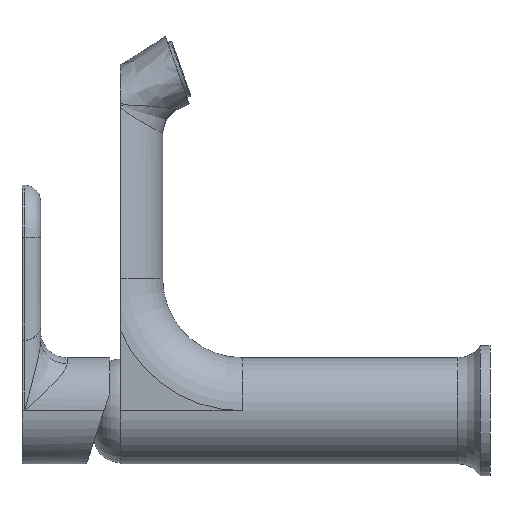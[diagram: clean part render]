
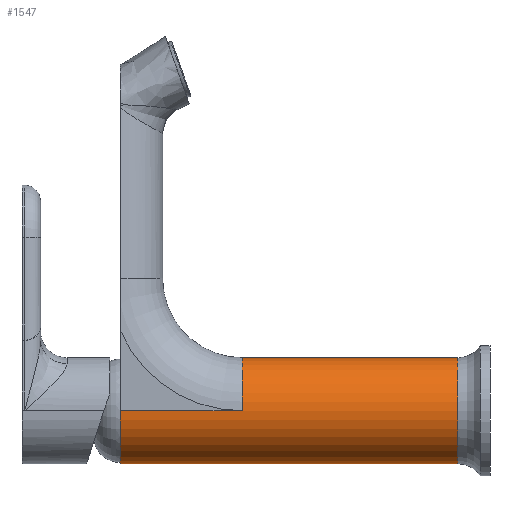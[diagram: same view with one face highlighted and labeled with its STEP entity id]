
A CAD part, left-side view. The second image highlights one B-rep face of the part: STEP entity #1547.
In plain terms, the highlighted cylindrical face has radius 20 mm (diameter 40 mm), a partial arc.
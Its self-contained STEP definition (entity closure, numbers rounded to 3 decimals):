
#99 = CIRCLE ( 'NONE', #3622, 20. ) ;
#129 = EDGE_CURVE ( 'NONE', #229, #1100, #2718, .T. ) ;
#162 = VERTEX_POINT ( 'NONE', #3592 ) ;
#200 = DIRECTION ( 'NONE',  ( 0., -1., 0. ) ) ;
#229 = VERTEX_POINT ( 'NONE', #2388 ) ;
#307 = EDGE_CURVE ( 'NONE', #1491, #2414, #99, .T. ) ;
#361 = CYLINDRICAL_SURFACE ( 'NONE', #2448, 20. ) ;
#407 = LINE ( 'NONE', #2145, #2753 ) ;
#447 = AXIS2_PLACEMENT_3D ( 'NONE', #3280, #766, #1302 ) ;
#605 = ORIENTED_EDGE ( 'NONE', *, *, #1910, .T. ) ;
#606 = ORIENTED_EDGE ( 'NONE', *, *, #129, .T. ) ;
#766 = DIRECTION ( 'NONE',  ( 0., 1., 0. ) ) ;
#897 = AXIS2_PLACEMENT_3D ( 'NONE', #1588, #1327, #1609 ) ;
#1040 = CARTESIAN_POINT ( 'NONE',  ( 0., 131.19, 0. ) ) ;
#1100 = VERTEX_POINT ( 'NONE', #1440 ) ;
#1177 = DIRECTION ( 'NONE',  ( 0., -1., 0. ) ) ;
#1243 = CIRCLE ( 'NONE', #447, 20. ) ;
#1302 = DIRECTION ( 'NONE',  ( 0., 0., -1. ) ) ;
#1319 = EDGE_CURVE ( 'NONE', #2414, #3091, #1529, .T. ) ;
#1327 = DIRECTION ( 'NONE',  ( 0., -1., 0. ) ) ;
#1421 = VECTOR ( 'NONE', #2406, 1000. ) ;
#1440 = CARTESIAN_POINT ( 'NONE',  ( -20., 85.19, 0. ) ) ;
#1491 = VERTEX_POINT ( 'NONE', #3533 ) ;
#1517 = CARTESIAN_POINT ( 'NONE',  ( 0., 3.84, -20. ) ) ;
#1529 = LINE ( 'NONE', #1662, #2090 ) ;
#1547 = ADVANCED_FACE ( 'NONE', ( #3128 ), #361, .T. ) ;
#1588 = CARTESIAN_POINT ( 'NONE',  ( 0., 85.19, 0. ) ) ;
#1609 = DIRECTION ( 'NONE',  ( 0., 0., 1. ) ) ;
#1662 = CARTESIAN_POINT ( 'NONE',  ( 0., 131.19, -20. ) ) ;
#1890 = DIRECTION ( 'NONE',  ( 0., 1., 0. ) ) ;
#1910 = EDGE_CURVE ( 'NONE', #1100, #1491, #407, .T. ) ;
#2090 = VECTOR ( 'NONE', #3065, 1000. ) ;
#2145 = CARTESIAN_POINT ( 'NONE',  ( -20., 115.19, 0. ) ) ;
#2388 = CARTESIAN_POINT ( 'NONE',  ( 0., 85.19, 20. ) ) ;
#2406 = DIRECTION ( 'NONE',  ( 0., -1., 0. ) ) ;
#2414 = VERTEX_POINT ( 'NONE', #3155 ) ;
#2448 = AXIS2_PLACEMENT_3D ( 'NONE', #1040, #200, #2993 ) ;
#2485 = ORIENTED_EDGE ( 'NONE', *, *, #3074, .T. ) ;
#2718 = CIRCLE ( 'NONE', #897, 20. ) ;
#2738 = LINE ( 'NONE', #3260, #1421 ) ;
#2753 = VECTOR ( 'NONE', #1890, 1000. ) ;
#2832 = EDGE_CURVE ( 'NONE', #229, #162, #2738, .T. ) ;
#2876 = DIRECTION ( 'NONE',  ( 0., 0., 1. ) ) ;
#2890 = ORIENTED_EDGE ( 'NONE', *, *, #2832, .F. ) ;
#2993 = DIRECTION ( 'NONE',  ( 0., 0., -1. ) ) ;
#3065 = DIRECTION ( 'NONE',  ( 0., -1., 0. ) ) ;
#3074 = EDGE_CURVE ( 'NONE', #3091, #162, #1243, .T. ) ;
#3091 = VERTEX_POINT ( 'NONE', #1517 ) ;
#3123 = ORIENTED_EDGE ( 'NONE', *, *, #1319, .T. ) ;
#3128 = FACE_OUTER_BOUND ( 'NONE', #3561, .T. ) ;
#3155 = CARTESIAN_POINT ( 'NONE',  ( 0., 131.09, -20. ) ) ;
#3164 = ORIENTED_EDGE ( 'NONE', *, *, #307, .T. ) ;
#3260 = CARTESIAN_POINT ( 'NONE',  ( 0., 131.19, 20. ) ) ;
#3280 = CARTESIAN_POINT ( 'NONE',  ( 0., 3.84, 0. ) ) ;
#3410 = CARTESIAN_POINT ( 'NONE',  ( 0., 131.09, 0. ) ) ;
#3533 = CARTESIAN_POINT ( 'NONE',  ( -20., 131.09, 0. ) ) ;
#3561 = EDGE_LOOP ( 'NONE', ( #2890, #606, #605, #3164, #3123, #2485 ) ) ;
#3592 = CARTESIAN_POINT ( 'NONE',  ( 0., 3.84, 20. ) ) ;
#3622 = AXIS2_PLACEMENT_3D ( 'NONE', #3410, #1177, #2876 ) ;
